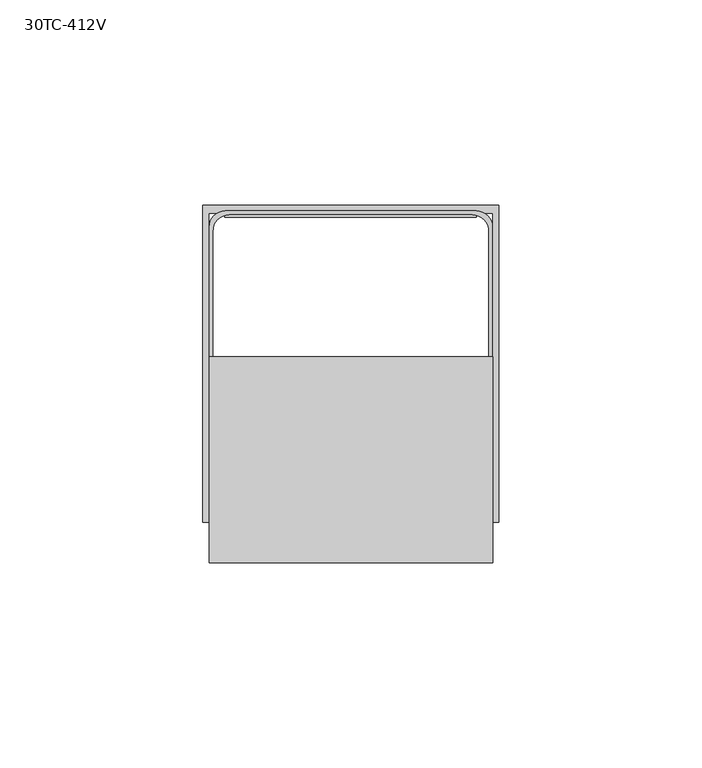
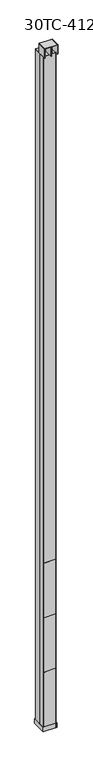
"""IFC4 building model written with IfcOpenShell, lengths in millimetres: proxy geometry, Vertical_Drop_Pole-Wiremold-Blank_Steel_Pole_Two_Compartment : 30TC-412V."""

from ifc_helpers import new_model, si_unit, point, frame, frame_2d, origin, origin_with_axes, place, context, project, spatial, polyline, circle_curve, trimmed, segment, composite_curve, outline, extrude, source, transform, mapped, element, save


def proxy_30tc_412v_e887f704(model_context):
    return source(origin(), model_context, "Body", "SweptSolid", [
        extrude(outline(polyline([(30.9760028, 3.0842362), (-31.0239972, 3.0842362), (-31.0239972, 4.0842362), (30.9760028, 4.0842362), (30.9760028, 3.0842362)])), frame((0.0, 0.0, 638.175), z_axis=(0.0, 0.0, 1.0), x_axis=(1.0, 0.0, 0.0)), (0.0, 0.0, 1.0), 306.3875),
        extrude(outline(polyline([(30.9760028, 3.0842362), (-31.0239972, 3.0842362), (-31.0239972, 4.0842362), (30.9760028, 4.0842362), (30.9760028, 3.0842362)])), frame((0.0, 0.0, 25.4), z_axis=(0.0, 0.0, 1.0), x_axis=(1.0, 0.0, 0.0)), (0.0, 0.0, 1.0), 306.3875),
        extrude(outline(polyline([(-31.0261847, 77.5967362), (30.9738153, 77.5967362), (30.9738153, 76.5967362), (-31.0261847, 76.5967362), (-31.0261847, 77.5967362)])), frame((0.0, 0.0, 25.4), z_axis=(0.0, 0.0, 1.0), x_axis=(1.0, 0.0, 0.0)), (0.0, 0.0, 1.0), 306.3875),
        extrude(outline(polyline([(-0.8191406, -9.1282089), (-0.8191406, 41.6717911), (0.9667969, 41.6717911), (0.9667969, -9.1282089), (-0.8191406, -9.1282089)])), frame((0.0, 0.0, 3784.6), z_axis=(0.0, 0.0, 1.0), x_axis=(1.0, 0.0, 0.0)), (0.0, 0.0, 1.0), 50.8),
        extrude(outline(polyline([(-23.8231255, 40.0842911), (23.9707817, 40.0842911), (23.9707817, 38.4967911), (-23.8231255, 38.4967911), (-23.8231255, 40.0842911)])), frame((0.0, 0.0, 3757.6125), z_axis=(0.0, 0.0, 1.0), x_axis=(1.0, 0.0, 0.0)), (0.0, 0.0, 1.0), 26.9875),
        extrude(outline(polyline([(-33.2636719, 41.6717911), (33.4113281, 41.6717911), (33.4113281, 40.0842911), (-33.2636719, 40.0842911), (-33.2636719, 41.6717911)])), frame((0.0, 0.0, 3784.6), z_axis=(0.0, 0.0, 1.0), x_axis=(1.0, 0.0, 0.0)), (0.0, 0.0, 1.0), 50.8),
        extrude(outline(polyline([(-34.8511719, -9.1282089), (-34.8511719, 41.6717911), (-33.2636719, 41.6717911), (-33.2636719, -9.1282089), (-34.8511719, -9.1282089)])), frame((0.0, 0.0, 3784.6), z_axis=(0.0, 0.0, 1.0), x_axis=(1.0, 0.0, 0.0)), (0.0, 0.0, 1.0), 50.8),
        extrude(outline(polyline([(33.4113281, -9.1282089), (33.4113281, 41.6717911), (34.9988281, 41.6717911), (34.9988281, -9.1282089), (33.4113281, -9.1282089)])), frame((0.0, 0.0, 3784.6), z_axis=(0.0, 0.0, 1.0), x_axis=(1.0, 0.0, 0.0)), (0.0, 0.0, 1.0), 50.8),
        extrude(outline(polyline([(-34.8511719, -9.1282089), (-34.8511719, 41.6717911), (34.9988281, 41.6717911), (34.9988281, -9.1282089), (-34.8511719, -9.1282089)])), frame((0.0, 0.0, 3835.4), z_axis=(0.0, 0.0, 1.0), x_axis=(1.0, 0.0, 0.0)), (0.0, 0.0, 1.0), 1.5875),
        extrude(outline(polyline([(-36.5125, 1.4967362), (-36.5125, 79.5967362), (36.5125, 79.5967362), (36.5125, 1.4967362), (-36.5125, 1.4967362)]), holes=[polyline([(34.925, 77.5967362), (-34.925, 77.5967362), (-34.925, 3.0842362), (34.925, 3.0842362), (34.925, 77.5967362)])]), origin_with_axes(), (0.0, 0.0, 1.0), 25.4),
        extrude(outline(composite_curve([segment(polyline([(-34.925, 39.4967362), (-34.925, 73.5967362)]), True, "CONTINUOUS"), segment(trimmed(circle_curve(frame_2d((-30.925, 73.5967362)), 4.0), [point((-34.925, 73.5967362))], [point((-30.925, 77.5967362))], False, "CARTESIAN"), True, "CONTINUOUS"), segment(polyline([(-30.925, 77.5967362), (30.925, 77.5967362)]), True, "CONTINUOUS"), segment(trimmed(circle_curve(frame_2d((30.925, 73.5967362)), 4.0), [point((30.925, 77.5967362))], [point((34.925, 73.5967362))], False, "CARTESIAN"), True, "CONTINUOUS"), segment(polyline([(34.925, 73.5967362), (34.925, 39.4967362), (-34.925, 39.4967362)]), True, "CONTINUOUS")], self_intersect=False), holes=[composite_curve([segment(trimmed(circle_curve(frame_2d((29.925, 72.5967362)), 4.0), [point((33.925, 72.5967362))], [point((29.925, 76.5967362))], True, "CARTESIAN"), True, "CONTINUOUS"), segment(polyline([(29.925, 76.5967362), (-29.925, 76.5967362)]), True, "CONTINUOUS"), segment(trimmed(circle_curve(frame_2d((-29.925, 72.5967362)), 4.0), [point((-29.925, 76.5967362))], [point((-33.925, 72.5967362))], True, "CARTESIAN"), True, "CONTINUOUS"), segment(polyline([(-33.925, 72.5967362), (-33.925, 40.4967362), (33.925, 40.4967362), (33.925, 72.5967362)]), True, "CONTINUOUS")], self_intersect=False)]), origin_with_axes(), (0.0, 0.0, 1.0), 3784.6),
        extrude(outline(composite_curve([segment(polyline([(34.925, 39.4967362), (34.925, 7.0842362)]), True, "CONTINUOUS"), segment(trimmed(circle_curve(frame_2d((30.925, 7.0842362)), 4.0), [point((34.925, 7.0842362))], [point((30.925, 3.0842362))], False, "CARTESIAN"), True, "CONTINUOUS"), segment(polyline([(30.925, 3.0842362), (-30.925, 3.0842362)]), True, "CONTINUOUS"), segment(trimmed(circle_curve(frame_2d((-30.925, 7.0842362)), 4.0), [point((-30.925, 3.0842362))], [point((-34.925, 7.0842362))], False, "CARTESIAN"), True, "CONTINUOUS"), segment(polyline([(-34.925, 7.0842362), (-34.925, 39.4967362), (34.925, 39.4967362)]), True, "CONTINUOUS")], self_intersect=False), holes=[composite_curve([segment(trimmed(circle_curve(frame_2d((-29.925, 8.0842362)), 4.0), [point((-33.925, 8.0842362))], [point((-29.925, 4.0842362))], True, "CARTESIAN"), True, "CONTINUOUS"), segment(polyline([(-29.925, 4.0842362), (29.925, 4.0842362)]), True, "CONTINUOUS"), segment(trimmed(circle_curve(frame_2d((29.925, 8.0842362)), 4.0), [point((29.925, 4.0842362))], [point((33.925, 8.0842362))], True, "CARTESIAN"), True, "CONTINUOUS"), segment(polyline([(33.925, 8.0842362), (33.925, 38.4967362), (-33.925, 38.4967362), (-33.925, 8.0842362)]), True, "CONTINUOUS")], self_intersect=False)]), origin_with_axes(), (0.0, 0.0, 1.0), 3784.6),
    ])


if __name__ == "__main__":
    model = new_model("IFC4")
    model_context = context("Model", 3, world=origin())
    ifc_project = project(units=[si_unit("LENGTHUNIT", "METRE", prefix="MILLI")], contexts=[model_context])
    site = spatial("IfcSite", under=ifc_project)
    building = spatial("IfcBuilding", under=site)
    placement = place(None, origin())
    proxy_30tc_412v_shape = proxy_30tc_412v_e887f704(model_context)
    element("IfcBuildingElementProxy", 1, Name="Vertical_Drop_Pole-Wiremold-Blank_Steel_Pole_Two_Compartment : 30TC-412V", ObjectType="Vertical_Drop_Pole-Wiremold-Blank_Steel_Pole_Two_Compartment : 30TC-412V", at=placement, inside=building, context=model_context, shape_type="MappedRepresentation", body=[
        mapped(proxy_30tc_412v_shape, transform((0.0, 0.0, 0.0), x_axis=(1.0, 0.0, 0.0), y_axis=(0.0, 1.0, 0.0), z_axis=(0.0, 0.0, 1.0))),
    ])
    save(model, "model.ifc")
